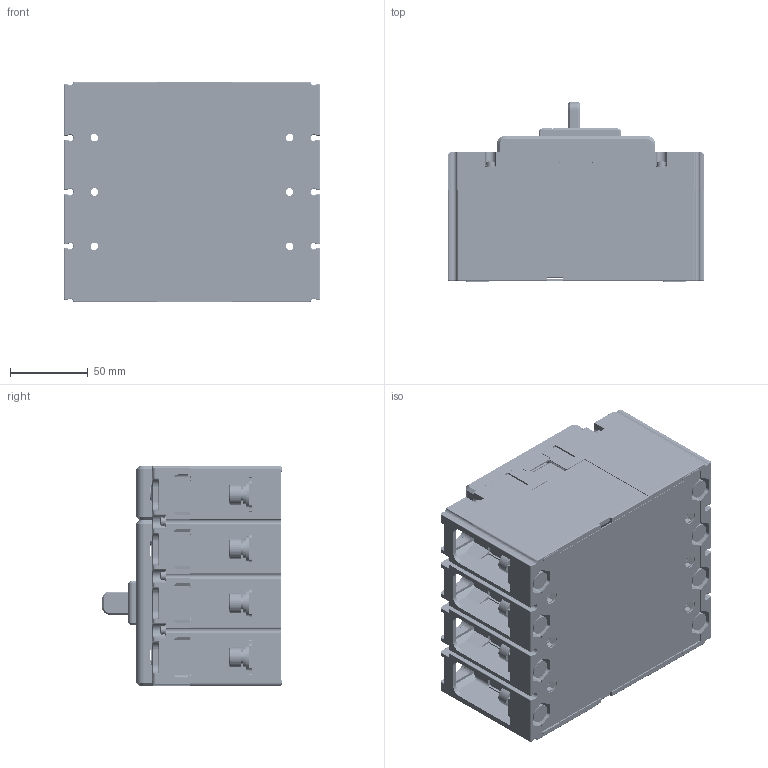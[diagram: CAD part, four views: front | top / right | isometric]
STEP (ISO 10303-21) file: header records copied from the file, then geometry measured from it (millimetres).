
FILE_DESCRIPTION((''),'2;1');
FILE_NAME('CDM3V-160F4P_ASM','2021-06-10T',('yan.shen'),(''),'PRO/ENGINEER BY PARAMETRIC TECHNOLOGY CORPORATION, 2015440','PRO/ENGINEER BY PARAMETRIC TECHNOLOGY CORPORATION, 2015440','');
FILE_SCHEMA(('CONFIG_CONTROL_DESIGN'));
Products named in the file (30): JZ-5024044600; GB_T809-M3X12; 5024044600_ASM; 8940007200; 8551033500; 8585064200; 8750029700; 8751002100; 8253076600; 5253029200_ASM; ZG-5315050100; GB_T809-M3X8; 5315050100_ASM; 8282018100_AF1; 8253077300; 5315051300_ASM; 8315095900; 8315096000; 7010100305R01_GB_T823_M3X10; 7090300201_GB_T93_3; GB_T97_4_3; 5850007700_ASM; 5315051500_ASM; 8742102800; GB_T70_1-M8X20; 7090200704_GB_T97_1_8; 7090370701K_GB_T93_8; 5850004100_ASM; 7030100225_GB_T9074_4-M3X30; CDM3V-160F4P_ASM
Assembly tree (83 placements, depth 5):
  CDM3V-160F4P_ASM
    5024044600_ASM
      JZ-5024044600
      GB_T809-M3X12  x10
    8940007200  x8
    8551033500  x4
    8585064200  x4
    8750029700  x4
    8751002100  x4
    5253029200_ASM
      8253076600
    5315051500_ASM
      5315051300_ASM
        5315050100_ASM
          ZG-5315050100
          GB_T809-M3X8  x6
        8282018100_AF1
        8253077300
      8315095900
      8315096000
      5850007700_ASM  x6
        7010100305R01_GB_T823_M3X10
        7090300201_GB_T93_3
        GB_T97_4_3
    8742102800
    5850004100_ASM  x8
      GB_T70_1-M8X20
      7090200704_GB_T97_1_8
      7090370701K_GB_T93_8
    7030100225_GB_T9074_4-M3X30  x10
Bounding box: 165 x 116 x 142 mm (x, y, z)
Volume: 699436.1 mm3; surface area: 485640.4 mm2
Topology: 100 solids, 156 shells, 10252 faces, 26284 edges, 16502 vertices
Faces by surface type: plane 4993, cylinder 3525, torus 724, cone 401, sphere 265, bspline 194, extrusion 150
Entity records: 278880 total; most frequent: CARTESIAN_POINT 75724, ORIENTED_EDGE 42546, DIRECTION 42208, EDGE_CURVE 21291, AXIS2_PLACEMENT_3D 14099, VECTOR 14010, LINE 13860, VERTEX_POINT 13343
